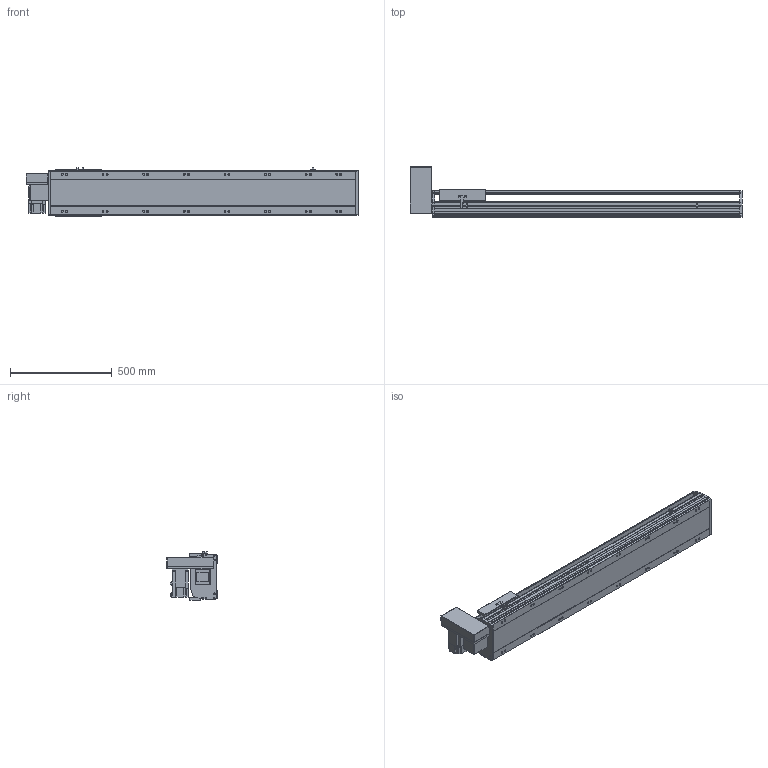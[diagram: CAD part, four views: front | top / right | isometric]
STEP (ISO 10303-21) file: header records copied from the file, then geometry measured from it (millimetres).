
FILE_DESCRIPTION(/* description */ ('STEP AP214'),/* implementation_level */ '2;1');
FILE_NAME(/* name */ 'PBS220-P40-S1150-RU-T75-C1-N(0)',/* time_stamp */ '2022-06-13T02:54:17+02:00',/* author */ ('License CC BY-ND 4.0'),/* organization */ ('CADENAS'),/* preprocessor_version */ 'ST-DEVELOPER v18.102',/* originating_system */ 'PARTsolutions',/* authorisation */ ' ');
FILE_SCHEMA (('AUTOMOTIVE_DESIGN {1 0 10303 214 3 1 1}'));
Length unit declared in the file: millimetre
Products named in the file (7): PBS220-P40-S1150-RU-T75-C1-N(0); PBS220_sensor; PBS220_plant; PBS220_sliser; T75-p1; PBS220T-RU_motors; PBS220-S1150()_body
Assembly tree (8 placements, depth 2):
  PBS220-P40-S1150-RU-T75-C1-N(0)
    PBS220_sensor  x3
    PBS220_plant
    PBS220_sliser
    T75-p1
    PBS220T-RU_motors
    PBS220-S1150()_body
Bounding box: 1634 x 247 x 238.5 mm (x, y, z)
Volume: 23479021.7 mm3; surface area: 2271726.7 mm2
Topology: 8 solids, 8 shells, 914 faces, 2396 edges, 1558 vertices
Faces by surface type: plane 598, cylinder 276, cone 40
Full cylindrical faces by diameter (mm): 2.013 x4, 4.5 x14, 4.917 x4, 6 x7, 6.647 x8, 8 x10, 8.376 x16, 8.5 x16, 10 x6, 14 x16, 38 x2, 40 x1, 70 x1
Entity records: 25629 total; most frequent: CARTESIAN_POINT 4492, DIRECTION 4455, ORIENTED_EDGE 4106, EDGE_CURVE 2053, AXIS2_PLACEMENT_3D 1555, VERTEX_POINT 1416, LINE 1345, VECTOR 1345
